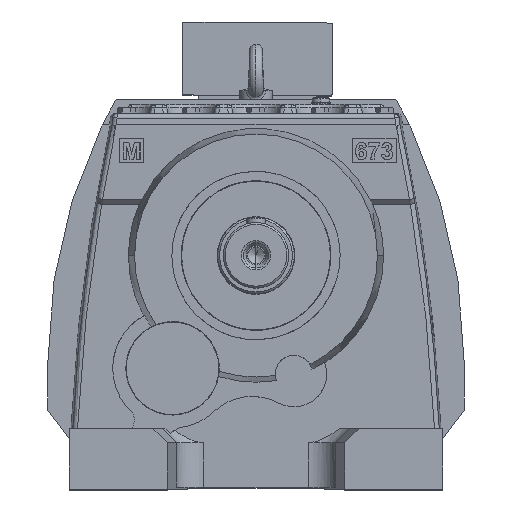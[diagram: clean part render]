
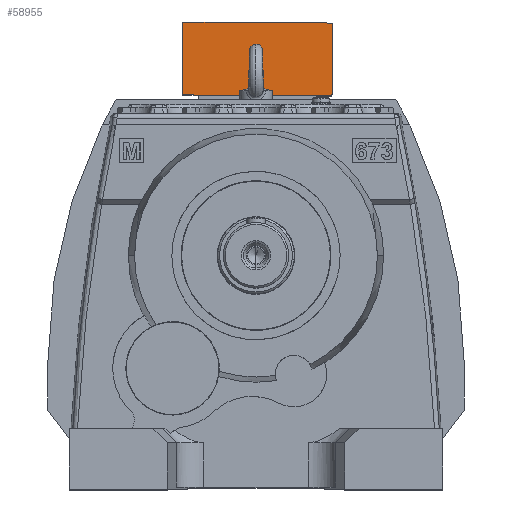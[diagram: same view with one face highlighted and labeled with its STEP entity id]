
A CAD part, top view. The second image highlights one B-rep face of the part: STEP entity #58955.
In plain terms, the highlighted planar face has unit normal (0, 0, 1).
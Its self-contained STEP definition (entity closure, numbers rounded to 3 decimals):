
#580 = ORIENTED_EDGE ( 'NONE', *, *, #62300, .T. ) ;
#597 = ORIENTED_EDGE ( 'NONE', *, *, #62268, .T. ) ;
#613 = ORIENTED_EDGE ( 'NONE', *, *, #62251, .T. ) ;
#653 = ORIENTED_EDGE ( 'NONE', *, *, #62254, .F. ) ;
#3584 = EDGE_LOOP ( 'NONE', ( #613, #580, #653, #597 ) ) ;
#9910 = CARTESIAN_POINT ( 'NONE',  ( 80., 263., 156.5 ) ) ;
#9966 = CARTESIAN_POINT ( 'NONE',  ( 80., 185., 156.5 ) ) ;
#10004 = CARTESIAN_POINT ( 'NONE',  ( -80., 185., 156.5 ) ) ;
#10060 = CARTESIAN_POINT ( 'NONE',  ( -80., 263., 156.5 ) ) ;
#24102 = LINE ( 'NONE', #25651, #24114 ) ;
#24114 = VECTOR ( 'NONE', #25660, 1000. ) ;
#24138 = LINE ( 'NONE', #25650, #24244 ) ;
#24188 = VECTOR ( 'NONE', #25674, 1000. ) ;
#24204 = LINE ( 'NONE', #25683, #24188 ) ;
#24222 = LINE ( 'NONE', #25765, #24232 ) ;
#24232 = VECTOR ( 'NONE', #25761, 1000. ) ;
#24244 = VECTOR ( 'NONE', #25652, 1000. ) ;
#25650 = CARTESIAN_POINT ( 'NONE',  ( 80., 185., 156.5 ) ) ;
#25651 = CARTESIAN_POINT ( 'NONE',  ( 80., 263., 156.5 ) ) ;
#25652 = DIRECTION ( 'NONE',  ( -1., 0., 0. ) ) ;
#25660 = DIRECTION ( 'NONE',  ( -1., 0., 0. ) ) ;
#25674 = DIRECTION ( 'NONE',  ( 0., 1., 0. ) ) ;
#25683 = CARTESIAN_POINT ( 'NONE',  ( 80., 263., 156.5 ) ) ;
#25761 = DIRECTION ( 'NONE',  ( 0., -1., 0. ) ) ;
#25765 = CARTESIAN_POINT ( 'NONE',  ( -80., 263., 156.5 ) ) ;
#28881 = CARTESIAN_POINT ( 'NONE',  ( 80., 263., 156.5 ) ) ;
#28901 = PLANE ( 'NONE',  #82067 ) ;
#28916 = DIRECTION ( 'NONE',  ( 0., 0., -1. ) ) ;
#28964 = DIRECTION ( 'NONE',  ( -1., 0., 0. ) ) ;
#36244 = FACE_OUTER_BOUND ( 'NONE', #3584, .T. ) ;
#54146 = VERTEX_POINT ( 'NONE', #9910 ) ;
#54156 = VERTEX_POINT ( 'NONE', #9966 ) ;
#54157 = VERTEX_POINT ( 'NONE', #10004 ) ;
#54235 = VERTEX_POINT ( 'NONE', #10060 ) ;
#58955 = ADVANCED_FACE ( 'N', ( #36244 ), #28901, .F. ) ;
#62251 = EDGE_CURVE ( 'NONE', #54146, #54235, #24102, .T. ) ;
#62254 = EDGE_CURVE ( 'NONE', #54156, #54157, #24138, .T. ) ;
#62268 = EDGE_CURVE ( 'NONE', #54156, #54146, #24204, .T. ) ;
#62300 = EDGE_CURVE ( 'NONE', #54235, #54157, #24222, .T. ) ;
#82067 = AXIS2_PLACEMENT_3D ( 'NONE', #28881, #28916, #28964 ) ;
